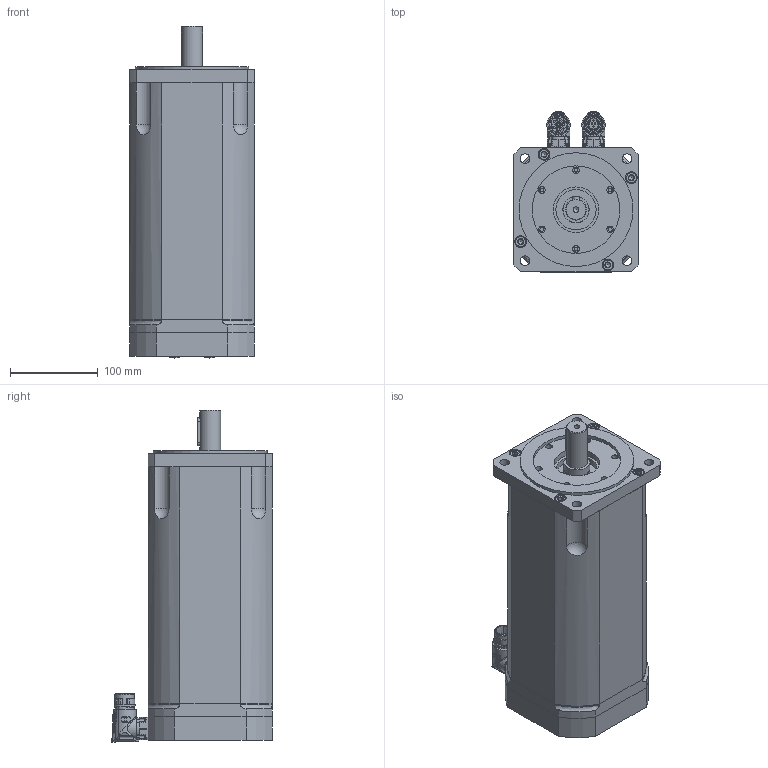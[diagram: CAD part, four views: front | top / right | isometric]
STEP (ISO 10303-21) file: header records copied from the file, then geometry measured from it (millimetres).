
FILE_DESCRIPTION(/* description */ (''),/* implementation_level */ '2;1');
FILE_NAME(/* name */ 'C:\Users\Public\Documents\Autodesk\Inventor LT 2014\Workspace\Motori Sito WEB\TG_5\STEP_DSM5_5x\DSM5_53_x197.stp',/* time_stamp */ '2021-03-31T14:17:28+02:00',/* author */ ('marcor'),/* organization */ (''),/* preprocessor_version */ 'ST-DEVELOPER v15.2',/* originating_system */ 'Autodesk Inventor LT ',/* authorisation */ '');
FILE_SCHEMA (('AUTOMOTIVE_DESIGN { 1 0 10303 214 3 1 1 }'));
Products named in the file (1): DSM5_53_x197
Bounding box: 142 x 183.5 x 379.41 mm (x, y, z)
Volume: 6015327 mm3; surface area: 363046 mm2
Topology: 16 solids, 32 shells, 1538 faces, 3983 edges, 2651 vertices
Faces by surface type: plane 536, cylinder 461, cone 319, bspline 113, torus 77, sphere 32
Full cylindrical faces by diameter (mm): 1.2 x12, 2.013 x8, 2.224 x8, 2.233 x6, 2.5 x8, 2.88 x8, 3.26 x8, 4.5 x8, 4.8 x8, 4.917 x4, 5.5 x3, 5.9 x2, 6 x4, 6.5 x4, 6.647 x9, 7.5 x6, 8 x8, 8.5 x8, 10 x4, 11 x8, 13 x8, 13.5 x8, 15.2 x1, 17.4 x3, 18 x1, 19.8 x1, 20 x2, 21.15 x4, 21.6 x1, 21.653 x2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
Entity records: 53954 total; most frequent: CARTESIAN_POINT 18246, ORIENTED_EDGE 7026, DIRECTION 6651, EDGE_CURVE 3513, AXIS2_PLACEMENT_3D 2710, VERTEX_POINT 2527, EDGE_LOOP 2084, ADVANCED_FACE 1538
